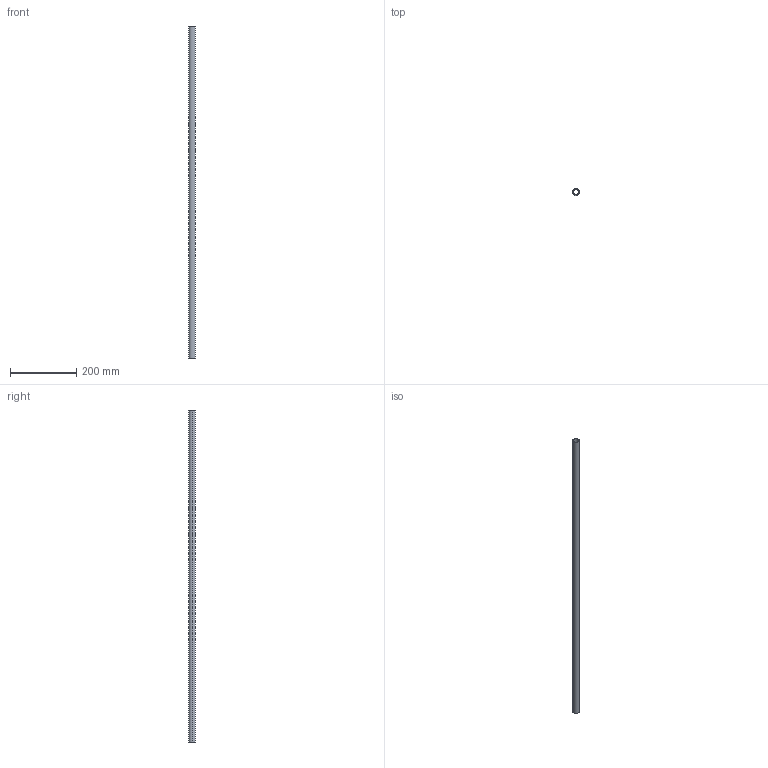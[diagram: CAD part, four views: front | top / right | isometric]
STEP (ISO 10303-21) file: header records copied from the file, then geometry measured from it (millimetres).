
FILE_DESCRIPTION (( 'STEP AP214' ), '1' );
FILE_NAME ('PCT20-1000.STEP', '2022-12-13T01:25:18', ( '' ), ( '' ), 'SwSTEP 2.0', 'SolidWorks 2018', '' );
FILE_SCHEMA (( 'AUTOMOTIVE_DESIGN' ));
Length unit declared in the file: millimetre
Products named in the file (1): PCT20-1000
Bounding box: 20 x 20 x 1000 mm (x, y, z)
Volume: 70874.3 mm3; surface area: 118265.6 mm2
Topology: 1 solids, 1 shells, 6 faces, 12 edges, 8 vertices
Faces by surface type: cylinder 4, plane 2
Entity records: 202 total; most frequent: DIRECTION 34, CARTESIAN_POINT 27, ORIENTED_EDGE 24, AXIS2_PLACEMENT_3D 15, EDGE_CURVE 12, EDGE_LOOP 8, VERTEX_POINT 8, CIRCLE 8
